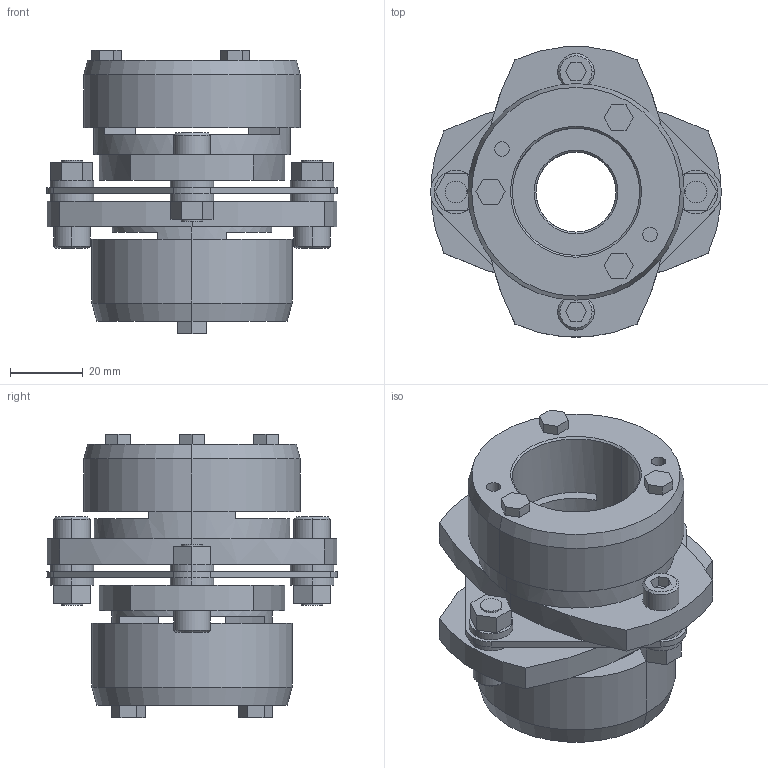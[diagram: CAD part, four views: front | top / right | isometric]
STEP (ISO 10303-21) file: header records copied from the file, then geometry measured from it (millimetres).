
FILE_DESCRIPTION((''),'2;1');
FILE_NAME('LCS-80T7-22×35.stp','2011-09-12T15:59:21',(''),(''),'AutoCAD STEP 2000i','AutoCAD 2000i',', , ');
FILE_SCHEMA(('CONFIG_CONTROL_DESIGN'));
Length unit declared in the file: millimetre
Products named in the file (13): LCS-80T7-22×35; 忣兜1; LC80T7-T035; LC80T7-T032; LC80T7-T030; LC80T7-T028; LC80T7-T024; LC80T7-T022-1; LC80T7-T022; LC80T7-T019; LC80T7-T017-1; LC80T7-T017; LCS80-ITA
Assembly tree (12 placements, depth 2):
  LCS-80T7-22×35
    忣兜1
    LC80T7-T035
    LC80T7-T032
    LC80T7-T030
    LC80T7-T028
    LC80T7-T024
    LC80T7-T022-1
    LC80T7-T022
    LC80T7-T019
    LC80T7-T017-1
    LC80T7-T017
    LCS80-ITA
Bounding box: 80 x 79.95 x 78.05 mm (x, y, z)
Volume: 137262.8 mm3; surface area: 42316.9 mm2
Topology: 1 solids, 1 shells, 228 faces, 558 edges, 364 vertices
Faces by surface type: plane 128, cylinder 80, cone 20
Entity records: 7033 total; most frequent: DIRECTION 1244, CARTESIAN_POINT 1163, ORIENTED_EDGE 1116, EDGE_CURVE 558, AXIS2_PLACEMENT_3D 445, VERTEX_POINT 364, VECTOR 354, LINE 354
